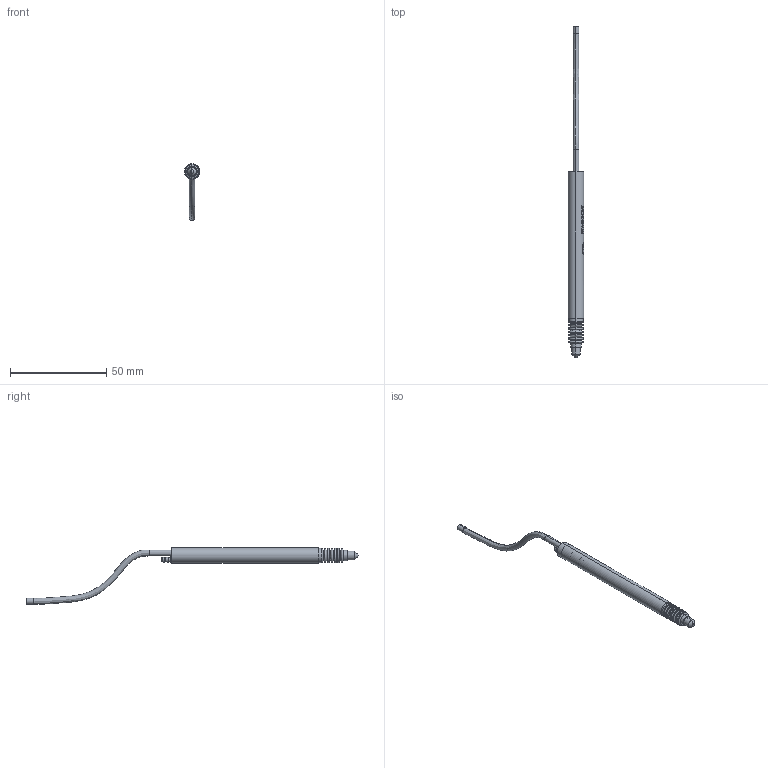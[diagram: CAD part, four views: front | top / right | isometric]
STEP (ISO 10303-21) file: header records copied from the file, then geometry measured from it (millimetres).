
FILE_DESCRIPTION((''),'2;1');
FILE_NAME('2613072','2013-04-11T',('11000205'),(''),'PRO/ENGINEER BY PARAMETRIC TECHNOLOGY CORPORATION, 2012480','PRO/ENGINEER BY PARAMETRIC TECHNOLOGY CORPORATION, 2012480','');
FILE_SCHEMA(('AUTOMOTIVE_DESIGN { 1 0 10303 214 1 1 1 1 }'));
Length unit declared in the file: millimetre
Products named in the file (1): 2613072
Bounding box: 8 x 172.35 x 29.29 mm (x, y, z)
Volume: 2096.5 mm3; surface area: 5904.5 mm2
Topology: 1 solids, 3 shells, 1081 faces, 2813 edges, 1815 vertices
Faces by surface type: plane 735, cylinder 135, torus 74, cone 72, extrusion 35, bspline 28, sphere 2
Entity records: 46235 total; most frequent: CARTESIAN_POINT 12680, ORIENTED_EDGE 5622, DIRECTION 4503, EDGE_CURVE 2811, VERTEX_POINT 1815, AXIS2_PLACEMENT_3D 1616, VECTOR 1271, LINE 1236
